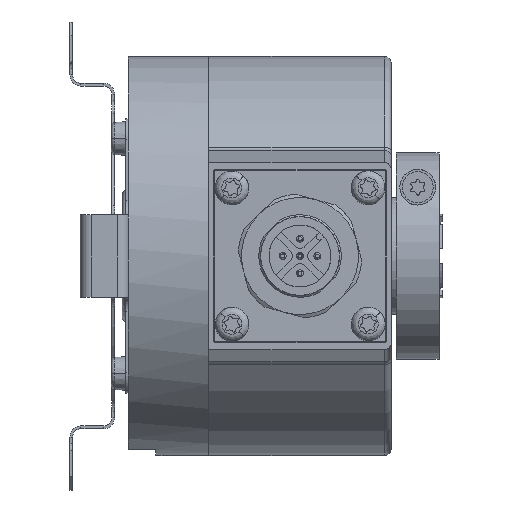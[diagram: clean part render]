
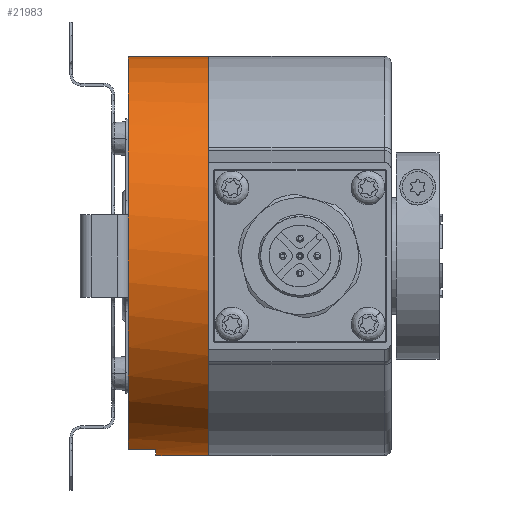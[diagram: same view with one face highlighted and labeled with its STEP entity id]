
A CAD part, front view. The second image highlights one B-rep face of the part: STEP entity #21983.
In plain terms, the highlighted cylindrical face has radius 29 mm (diameter 58 mm), a partial arc.
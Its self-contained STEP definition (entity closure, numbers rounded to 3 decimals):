
#260 = CIRCLE ( 'NONE', #623, 29. ) ;
#421 = CARTESIAN_POINT ( 'NONE',  ( 8.068, 18.423, -28.142 ) ) ;
#623 = AXIS2_PLACEMENT_3D ( 'NONE', #12588, #19660, #22419 ) ;
#960 = LINE ( 'NONE', #20180, #14735 ) ;
#1219 = CARTESIAN_POINT ( 'NONE',  ( 8.068, 25.423, 29. ) ) ;
#1389 = ORIENTED_EDGE ( 'NONE', *, *, #22162, .F. ) ;
#1707 = DIRECTION ( 'NONE',  ( 0., 0., -1. ) ) ;
#2266 = CARTESIAN_POINT ( 'NONE',  ( 8.068, 25.423, -29. ) ) ;
#3189 = EDGE_CURVE ( 'NONE', #7593, #12370, #8217, .T. ) ;
#3420 = AXIS2_PLACEMENT_3D ( 'NONE', #8746, #7345, #10941 ) ;
#4600 = CARTESIAN_POINT ( 'NONE',  ( -3.622, 25.423, 29. ) ) ;
#6289 = VERTEX_POINT ( 'NONE', #4600 ) ;
#6359 = CARTESIAN_POINT ( 'NONE',  ( 0.378, 25.423, -29. ) ) ;
#6698 = LINE ( 'NONE', #421, #14706 ) ;
#7142 = DIRECTION ( 'NONE',  ( -1., 0., 0. ) ) ;
#7345 = DIRECTION ( 'NONE',  ( 1., 0., 0. ) ) ;
#7593 = VERTEX_POINT ( 'NONE', #6359 ) ;
#7600 = CARTESIAN_POINT ( 'NONE',  ( -3.622, 18.423, -28.142 ) ) ;
#7843 = EDGE_CURVE ( 'NONE', #12317, #19245, #6698, .T. ) ;
#8030 = DIRECTION ( 'NONE',  ( 1., 0., 0. ) ) ;
#8217 = LINE ( 'NONE', #13196, #9965 ) ;
#8548 = CARTESIAN_POINT ( 'NONE',  ( 8.068, 25.423, 0. ) ) ;
#8606 = EDGE_CURVE ( 'NONE', #6289, #19355, #960, .T. ) ;
#8746 = CARTESIAN_POINT ( 'NONE',  ( -3.622, 25.423, 0. ) ) ;
#9033 = CIRCLE ( 'NONE', #21963, 29. ) ;
#9300 = EDGE_LOOP ( 'NONE', ( #11851, #13938, #21217, #21748, #12511, #1389 ) ) ;
#9965 = VECTOR ( 'NONE', #11700, 1000. ) ;
#10473 = DIRECTION ( 'NONE',  ( 1., 0., 0. ) ) ;
#10941 = DIRECTION ( 'NONE',  ( 0., 0., -1. ) ) ;
#11700 = DIRECTION ( 'NONE',  ( 1., 0., 0. ) ) ;
#11851 = ORIENTED_EDGE ( 'NONE', *, *, #8606, .F. ) ;
#12317 = VERTEX_POINT ( 'NONE', #20214 ) ;
#12370 = VERTEX_POINT ( 'NONE', #2266 ) ;
#12449 = AXIS2_PLACEMENT_3D ( 'NONE', #8548, #22775, #1707 ) ;
#12511 = ORIENTED_EDGE ( 'NONE', *, *, #3189, .T. ) ;
#12588 = CARTESIAN_POINT ( 'NONE',  ( 8.068, 25.423, 0. ) ) ;
#13196 = CARTESIAN_POINT ( 'NONE',  ( 8.068, 25.423, -29. ) ) ;
#13691 = EDGE_CURVE ( 'NONE', #6289, #19245, #19346, .T. ) ;
#13938 = ORIENTED_EDGE ( 'NONE', *, *, #13691, .T. ) ;
#14332 = FACE_OUTER_BOUND ( 'NONE', #9300, .T. ) ;
#14706 = VECTOR ( 'NONE', #7142, 1000. ) ;
#14735 = VECTOR ( 'NONE', #8030, 1000. ) ;
#15170 = EDGE_CURVE ( 'NONE', #12317, #7593, #9033, .T. ) ;
#15351 = CARTESIAN_POINT ( 'NONE',  ( 0.378, 25.423, 0. ) ) ;
#17571 = CYLINDRICAL_SURFACE ( 'NONE', #12449, 29. ) ;
#19245 = VERTEX_POINT ( 'NONE', #7600 ) ;
#19346 = CIRCLE ( 'NONE', #3420, 29. ) ;
#19355 = VERTEX_POINT ( 'NONE', #1219 ) ;
#19660 = DIRECTION ( 'NONE',  ( 1., 0., 0. ) ) ;
#20180 = CARTESIAN_POINT ( 'NONE',  ( 8.068, 25.423, 29. ) ) ;
#20214 = CARTESIAN_POINT ( 'NONE',  ( 0.378, 18.423, -28.142 ) ) ;
#20896 = DIRECTION ( 'NONE',  ( 0., 0., 1. ) ) ;
#21217 = ORIENTED_EDGE ( 'NONE', *, *, #7843, .F. ) ;
#21748 = ORIENTED_EDGE ( 'NONE', *, *, #15170, .T. ) ;
#21963 = AXIS2_PLACEMENT_3D ( 'NONE', #15351, #10473, #20896 ) ;
#21983 = ADVANCED_FACE ( 'NONE', ( #14332 ), #17571, .T. ) ;
#22162 = EDGE_CURVE ( 'NONE', #19355, #12370, #260, .T. ) ;
#22419 = DIRECTION ( 'NONE',  ( 0., 0., -1. ) ) ;
#22775 = DIRECTION ( 'NONE',  ( 1., 0., 0. ) ) ;
